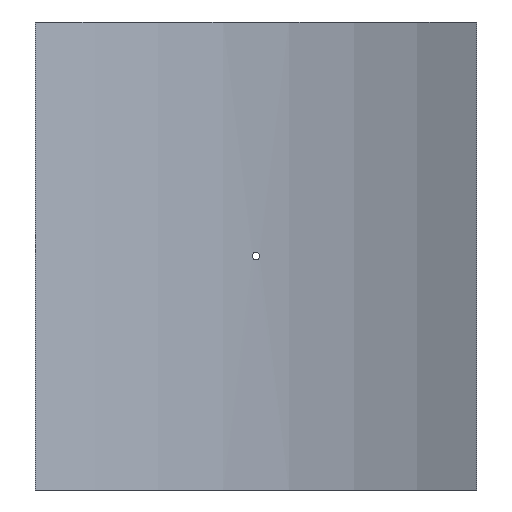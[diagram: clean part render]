
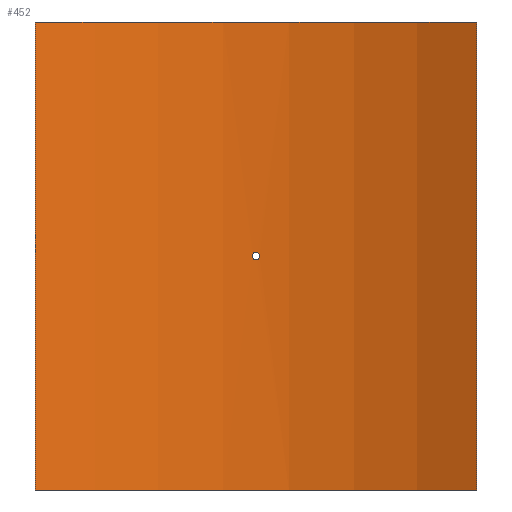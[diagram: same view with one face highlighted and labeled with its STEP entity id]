
A CAD part, front view. The second image highlights one B-rep face of the part: STEP entity #452.
In plain terms, the highlighted cylindrical face has radius 600 mm (diameter 1200 mm), a partial arc.
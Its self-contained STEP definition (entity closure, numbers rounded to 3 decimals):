
#19=B_SPLINE_CURVE_WITH_KNOTS('',3,(#788,#789,#790,#791,#792,#793,#794,
#795,#796,#797,#798,#799,#800,#801,#802,#803,#804,#805,#806,#807,#808,#809,
#810,#811,#812,#813,#814,#815,#816,#817,#818,#819,#820,#821),
 .UNSPECIFIED.,.T.,.F.,(4,2,2,2,2,2,2,2,2,2,2,2,2,2,2,2,4),(0.,0.181,
0.362,0.542,0.723,0.904,
1.085,1.266,1.446,1.627,1.808,
1.989,2.17,2.351,2.531,2.712,
2.893),.UNSPECIFIED.);
#43=LINE('',#1065,#62);
#44=LINE('',#1068,#63);
#62=VECTOR('',#661,10.);
#63=VECTOR('',#664,10.);
#76=CYLINDRICAL_SURFACE('',#530,600.);
#88=FACE_BOUND('',#167,.T.);
#127=FACE_OUTER_BOUND('',#166,.T.);
#166=EDGE_LOOP('',(#405,#406,#407,#408));
#167=EDGE_LOOP('',(#409));
#201=CIRCLE('',#529,600.);
#202=CIRCLE('',#531,600.);
#219=VERTEX_POINT('',#786);
#242=VERTEX_POINT('',#1058);
#243=VERTEX_POINT('',#1060);
#244=VERTEX_POINT('',#1064);
#245=VERTEX_POINT('',#1066);
#267=EDGE_CURVE('',#219,#219,#19,.T.);
#299=EDGE_CURVE('',#242,#243,#201,.T.);
#301=EDGE_CURVE('',#244,#242,#43,.T.);
#302=EDGE_CURVE('',#245,#244,#202,.T.);
#303=EDGE_CURVE('',#245,#243,#44,.T.);
#405=ORIENTED_EDGE('',*,*,#301,.F.);
#406=ORIENTED_EDGE('',*,*,#302,.F.);
#407=ORIENTED_EDGE('',*,*,#303,.T.);
#408=ORIENTED_EDGE('',*,*,#299,.F.);
#409=ORIENTED_EDGE('',*,*,#267,.T.);
#452=ADVANCED_FACE('',(#127,#88),#76,.F.);
#529=AXIS2_PLACEMENT_3D('',#1061,#656,#657);
#530=AXIS2_PLACEMENT_3D('',#1063,#659,#660);
#531=AXIS2_PLACEMENT_3D('',#1067,#662,#663);
#656=DIRECTION('center_axis',(0.,0.,1.));
#657=DIRECTION('ref_axis',(0.479,0.878,0.));
#659=DIRECTION('center_axis',(0.,0.,1.));
#660=DIRECTION('ref_axis',(0.479,0.878,0.));
#661=DIRECTION('',(0.,0.,-1.));
#662=DIRECTION('center_axis',(0.,0.,-1.));
#663=DIRECTION('ref_axis',(0.479,0.878,0.));
#664=DIRECTION('',(0.,0.,-1.));
#786=CARTESIAN_POINT('',(4.8,599.981,0.));
#788=CARTESIAN_POINT('Ctrl Pts',(4.8,599.981,0.));
#789=CARTESIAN_POINT('Ctrl Pts',(4.8,599.981,-0.603));
#790=CARTESIAN_POINT('Ctrl Pts',(4.68,599.982,-1.246));
#791=CARTESIAN_POINT('Ctrl Pts',(4.19,599.985,-2.428));
#792=CARTESIAN_POINT('Ctrl Pts',(3.82,599.988,-2.968));
#793=CARTESIAN_POINT('Ctrl Pts',(2.968,599.993,-3.82));
#794=CARTESIAN_POINT('Ctrl Pts',(2.428,599.995,-4.19));
#795=CARTESIAN_POINT('Ctrl Pts',(1.246,599.999,-4.68));
#796=CARTESIAN_POINT('Ctrl Pts',(0.603,600.,-4.8));
#797=CARTESIAN_POINT('Ctrl Pts',(-0.603,600.,-4.8));
#798=CARTESIAN_POINT('Ctrl Pts',(-1.246,599.999,-4.68));
#799=CARTESIAN_POINT('Ctrl Pts',(-2.428,599.995,-4.19));
#800=CARTESIAN_POINT('Ctrl Pts',(-2.968,599.993,-3.82));
#801=CARTESIAN_POINT('Ctrl Pts',(-3.82,599.988,-2.968));
#802=CARTESIAN_POINT('Ctrl Pts',(-4.19,599.985,-2.428));
#803=CARTESIAN_POINT('Ctrl Pts',(-4.68,599.982,-1.246));
#804=CARTESIAN_POINT('Ctrl Pts',(-4.8,599.981,-0.603));
#805=CARTESIAN_POINT('Ctrl Pts',(-4.8,599.981,0.603));
#806=CARTESIAN_POINT('Ctrl Pts',(-4.68,599.982,1.246));
#807=CARTESIAN_POINT('Ctrl Pts',(-4.19,599.985,2.428));
#808=CARTESIAN_POINT('Ctrl Pts',(-3.82,599.988,2.968));
#809=CARTESIAN_POINT('Ctrl Pts',(-2.968,599.993,3.82));
#810=CARTESIAN_POINT('Ctrl Pts',(-2.428,599.995,4.19));
#811=CARTESIAN_POINT('Ctrl Pts',(-1.246,599.999,4.68));
#812=CARTESIAN_POINT('Ctrl Pts',(-0.603,600.,4.8));
#813=CARTESIAN_POINT('Ctrl Pts',(0.603,600.,4.8));
#814=CARTESIAN_POINT('Ctrl Pts',(1.246,599.999,4.68));
#815=CARTESIAN_POINT('Ctrl Pts',(2.428,599.995,4.19));
#816=CARTESIAN_POINT('Ctrl Pts',(2.968,599.993,3.82));
#817=CARTESIAN_POINT('Ctrl Pts',(3.82,599.988,2.968));
#818=CARTESIAN_POINT('Ctrl Pts',(4.19,599.985,2.428));
#819=CARTESIAN_POINT('Ctrl Pts',(4.68,599.982,1.246));
#820=CARTESIAN_POINT('Ctrl Pts',(4.8,599.981,0.603));
#821=CARTESIAN_POINT('Ctrl Pts',(4.8,599.981,0.));
#1058=CARTESIAN_POINT('',(287.5,526.634,-305.));
#1060=CARTESIAN_POINT('',(-287.5,526.634,-305.));
#1061=CARTESIAN_POINT('Origin',(0.,0.,
-305.));
#1063=CARTESIAN_POINT('Origin',(0.,0.,
0.));
#1064=CARTESIAN_POINT('',(287.5,526.634,305.));
#1065=CARTESIAN_POINT('',(287.5,526.634,0.));
#1066=CARTESIAN_POINT('',(-287.5,526.634,305.));
#1067=CARTESIAN_POINT('Origin',(0.,0.,
305.));
#1068=CARTESIAN_POINT('',(-287.5,526.634,0.));
